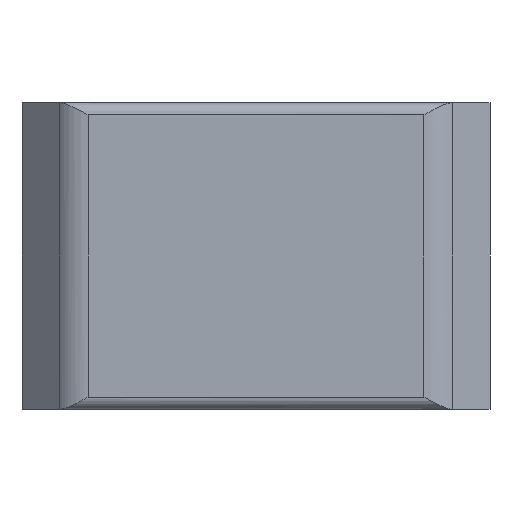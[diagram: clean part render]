
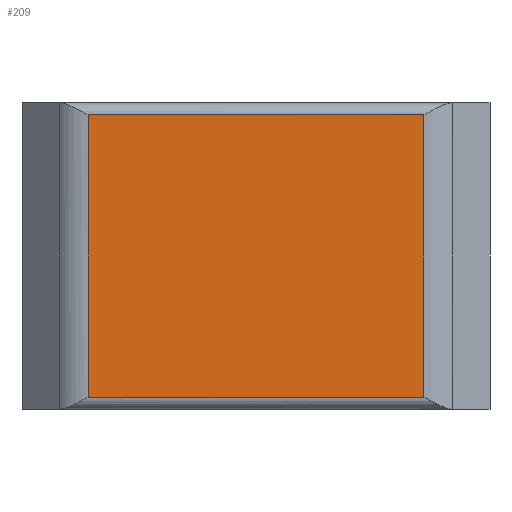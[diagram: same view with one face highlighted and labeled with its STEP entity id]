
A CAD part, front view. The second image highlights one B-rep face of the part: STEP entity #209.
In plain terms, the highlighted planar face has unit normal (0, -1, 0).
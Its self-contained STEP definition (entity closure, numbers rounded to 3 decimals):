
#23 = VERTEX_POINT ( 'NONE', #1513 ) ;
#39 = VECTOR ( 'NONE', #203, 1000. ) ;
#57 = LINE ( 'NONE', #1569, #1426 ) ;
#132 = CARTESIAN_POINT ( 'NONE',  ( 20.818, 0., 17.5 ) ) ;
#203 = DIRECTION ( 'NONE',  ( 0., 0., -1. ) ) ;
#209 = ADVANCED_FACE ( 'NONE', ( #1404 ), #644, .F. ) ;
#248 = DIRECTION ( 'NONE',  ( 0., 1., 0. ) ) ;
#251 = ORIENTED_EDGE ( 'NONE', *, *, #1012, .T. ) ;
#316 = VECTOR ( 'NONE', #609, 1000. ) ;
#408 = ORIENTED_EDGE ( 'NONE', *, *, #1298, .T. ) ;
#412 = LINE ( 'NONE', #1638, #1267 ) ;
#492 = CARTESIAN_POINT ( 'NONE',  ( -20.818, 0., 17.5 ) ) ;
#537 = EDGE_CURVE ( 'NONE', #1483, #912, #1291, .T. ) ;
#560 = DIRECTION ( 'NONE',  ( 0., 0., -1. ) ) ;
#609 = DIRECTION ( 'NONE',  ( -1., 0., 0. ) ) ;
#616 = ORIENTED_EDGE ( 'NONE', *, *, #537, .F. ) ;
#644 = PLANE ( 'NONE',  #928 ) ;
#649 = VERTEX_POINT ( 'NONE', #1285 ) ;
#667 = CARTESIAN_POINT ( 'NONE',  ( 20.818, 0., -17.5 ) ) ;
#685 = ORIENTED_EDGE ( 'NONE', *, *, #1286, .T. ) ;
#912 = VERTEX_POINT ( 'NONE', #667 ) ;
#918 = DIRECTION ( 'NONE',  ( 0., 0., 1. ) ) ;
#928 = AXIS2_PLACEMENT_3D ( 'NONE', #1076, #248, #918 ) ;
#1011 = CARTESIAN_POINT ( 'NONE',  ( 20.818, 0., 19. ) ) ;
#1012 = EDGE_CURVE ( 'NONE', #23, #649, #412, .T. ) ;
#1022 = DIRECTION ( 'NONE',  ( 1., 0., 0. ) ) ;
#1076 = CARTESIAN_POINT ( 'NONE',  ( -20.818, 0., 19. ) ) ;
#1267 = VECTOR ( 'NONE', #560, 1000. ) ;
#1285 = CARTESIAN_POINT ( 'NONE',  ( -20.818, 0., -17.5 ) ) ;
#1286 = EDGE_CURVE ( 'NONE', #649, #912, #57, .T. ) ;
#1291 = LINE ( 'NONE', #1011, #39 ) ;
#1298 = EDGE_CURVE ( 'NONE', #1483, #23, #1389, .T. ) ;
#1389 = LINE ( 'NONE', #492, #316 ) ;
#1404 = FACE_OUTER_BOUND ( 'NONE', #1456, .T. ) ;
#1426 = VECTOR ( 'NONE', #1022, 1000. ) ;
#1456 = EDGE_LOOP ( 'NONE', ( #251, #685, #616, #408 ) ) ;
#1483 = VERTEX_POINT ( 'NONE', #132 ) ;
#1513 = CARTESIAN_POINT ( 'NONE',  ( -20.818, 0., 17.5 ) ) ;
#1569 = CARTESIAN_POINT ( 'NONE',  ( 20.818, 0., -17.5 ) ) ;
#1638 = CARTESIAN_POINT ( 'NONE',  ( -20.818, 0., 19. ) ) ;
